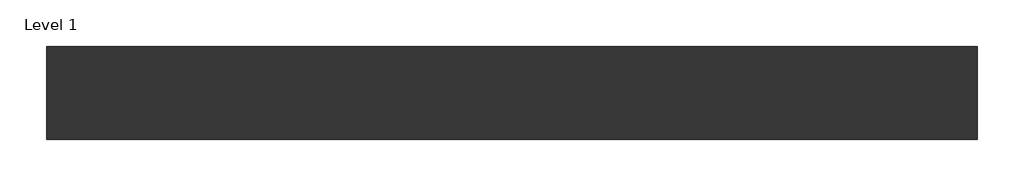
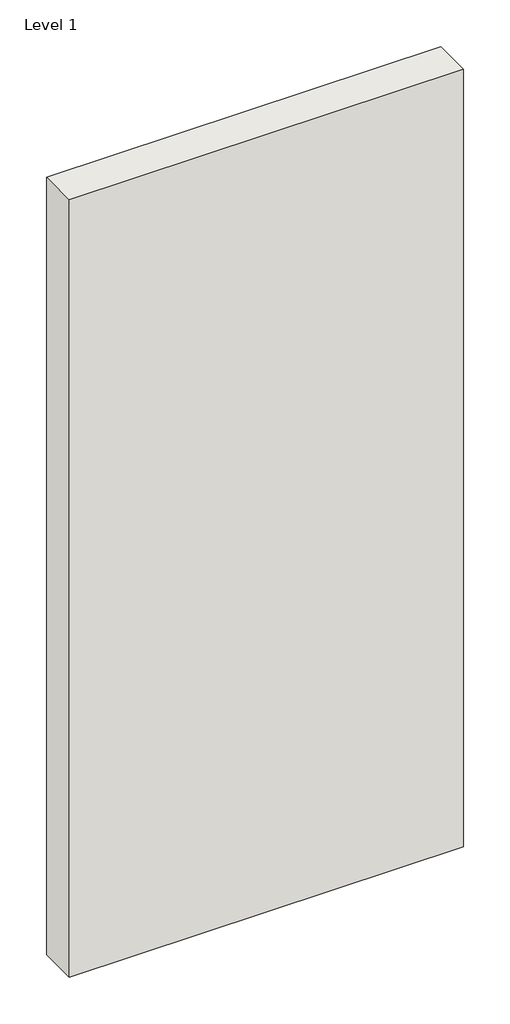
# One storey: 1 wall.
"""IFC4 building model written with IfcOpenShell, lengths in millimetres."""

from ifc_helpers import new_model, si_unit, origin, origin_with_axes, place, context, project, spatial, polyline, outline, extrude, element, save

model = new_model("IFC4")

# Units and contexts
model_context = context("Model", 3, world=origin())
ifc_project = project(units=[si_unit("LENGTHUNIT", "METRE", prefix="MILLI")], contexts=[model_context])

# Site, building, storey
site = spatial("IfcSite", under=ifc_project)
building = spatial("IfcBuilding", under=site)
storey = spatial("IfcBuildingStorey", under=building, Name="Level 1", Elevation=0.0)

# Wall
placement = place(None, origin())
element("IfcWall", 1, ObjectType="Trasdosado Protección contra incendios Placo® PPF 120/400 - EI 60", at=placement, inside=storey, context=model_context, shape_type="SweptSolid", body=[
    extrude(outline(polyline([(-27089.0682254, -64609.0588019), (-28289.0682254, -64609.0588019), (-28289.0682254, -64489.0588019), (-27089.0682254, -64489.0588019), (-27089.0682254, -64609.0588019)])), origin_with_axes(), (0.0, 0.0, 1.0), 2500.0),
])

save(model, "model.ifc")
